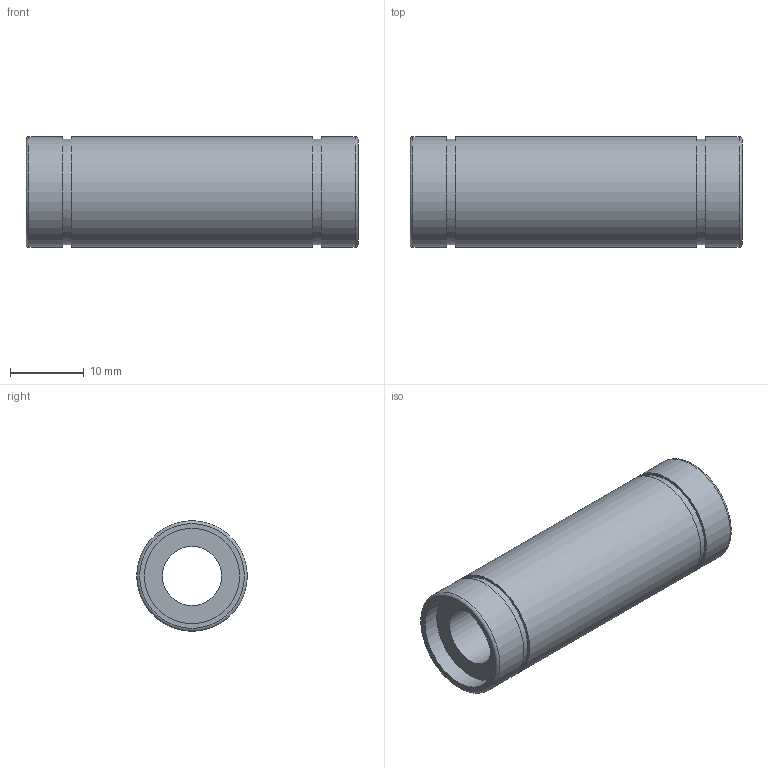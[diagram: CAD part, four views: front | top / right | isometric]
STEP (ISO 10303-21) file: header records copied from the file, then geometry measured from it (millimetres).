
FILE_DESCRIPTION( ( 'Unknown' ), '1' );
FILE_NAME( 'D:/累诀/己绕皋墨飘肺葱胶/11-04-06_档搁累己/01_府聪绢何教/LM L/LM 8L.stp', 'Unknown', ( 'Unknown' ), ( 'Unknown' ), 'PSStep 11.0', 'Unknown', ' ' );
FILE_SCHEMA( ( 'AUTOMOTIVE_DESIGN { 1 0 10303 214 1 1 1 1 }' ) );
Length unit declared in the file: millimetre
Products named in the file (1): 1
Bounding box: 45 x 15 x 15 mm (x, y, z)
Volume: 5289.6 mm3; surface area: 3617 mm2
Topology: 1 solids, 1 shells, 18 faces, 31 edges, 21 vertices
Faces by surface type: plane 8, cylinder 8, torus 2
Full cylindrical faces by diameter (mm): 8 x1, 12.9 x2, 14.3 x2, 15 x3
Entity records: 528 total; most frequent: DIRECTION 74, CARTESIAN_POINT 55, AXIS2_PLACEMENT_3D 37, EDGE_LOOP 36, ORIENTED_EDGE 36, FACE_OUTER_BOUND 28, STYLED_ITEM 18, PRESENTATION_STYLE_ASSIGNMENT 18
